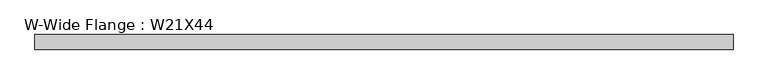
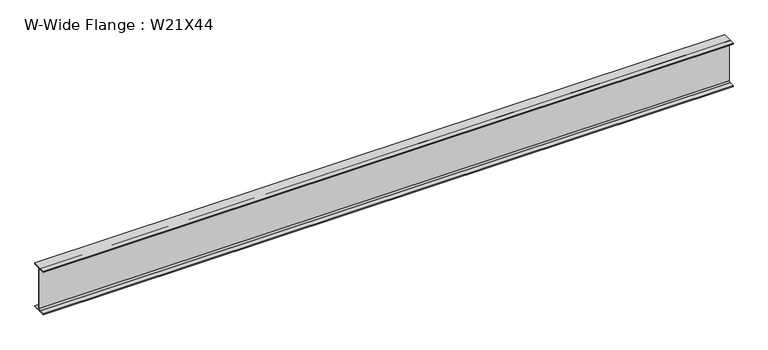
"""IFC4 building model written with IfcOpenShell, lengths in millimetres: beam geometry, W-Wide Flange : W21X44."""

from ifc_helpers import new_model, si_unit, point, frame, frame_2d, origin, place, context, project, spatial, polyline, circle_curve, trimmed, segment, composite_curve, outline, extrude, source, transform, mapped, element, save


def w_wide_flange_w21x44_7aeec852(model_context):
    return source(origin(), model_context, "Body", "SweptSolid", [
        extrude(outline(composite_curve([segment(polyline([(82.55, -251.46), (82.55, -262.89), (-82.55, -262.89), (-82.55, -251.46), (-21.59, -251.46)]), True, "CONTINUOUS"), segment(trimmed(circle_curve(frame_2d((-21.59, -234.315)), 17.145), [point((-21.59, -251.46))], [point((-4.445, -234.315))], True, "CARTESIAN"), True, "CONTINUOUS"), segment(polyline([(-4.445, -234.315), (-4.445, 234.315)]), True, "CONTINUOUS"), segment(trimmed(circle_curve(frame_2d((-21.59, 234.315)), 17.145), [point((-4.445, 234.315))], [point((-21.59, 251.46))], True, "CARTESIAN"), True, "CONTINUOUS"), segment(polyline([(-21.59, 251.46), (-82.55, 251.46), (-82.55, 262.89), (82.55, 262.89), (82.55, 251.46), (21.59, 251.46)]), True, "CONTINUOUS"), segment(trimmed(circle_curve(frame_2d((21.59, 234.315)), 17.145), [point((21.59, 251.46))], [point((4.445, 234.315))], True, "CARTESIAN"), True, "CONTINUOUS"), segment(polyline([(4.445, 234.315), (4.445, -234.315)]), True, "CONTINUOUS"), segment(trimmed(circle_curve(frame_2d((21.59, -234.315)), 17.145), [point((4.445, -234.315))], [point((21.59, -251.46))], True, "CARTESIAN"), True, "CONTINUOUS"), segment(polyline([(21.59, -251.46), (82.55, -251.46)]), True, "CONTINUOUS")], self_intersect=False)), frame((-3902.7822091, 0.0, 0.0), z_axis=(1.0, 0.0, 0.0), x_axis=(0.0, 1.0, 0.0)), (0.0, 0.0, 1.0), 7866.2677304),
    ])


if __name__ == "__main__":
    model = new_model("IFC4")
    model_context = context("Model", 3, world=origin())
    ifc_project = project(units=[si_unit("LENGTHUNIT", "METRE", prefix="MILLI")], contexts=[model_context])
    site = spatial("IfcSite", under=ifc_project)
    building = spatial("IfcBuilding", under=site)
    placement = place(None, origin())
    w_wide_flange_w21x44_shape = w_wide_flange_w21x44_7aeec852(model_context)
    element("IfcBeam", 1, ObjectType="W-Wide Flange : W21X44", at=placement, inside=building, context=model_context, shape_type="MappedRepresentation", body=[
        mapped(w_wide_flange_w21x44_shape, transform((0.0, 0.0, 0.0), x_axis=(1.0, 0.0, 0.0), y_axis=(0.0, 1.0, 0.0), z_axis=(0.0, 0.0, 1.0))),
    ])
    save(model, "model.ifc")
